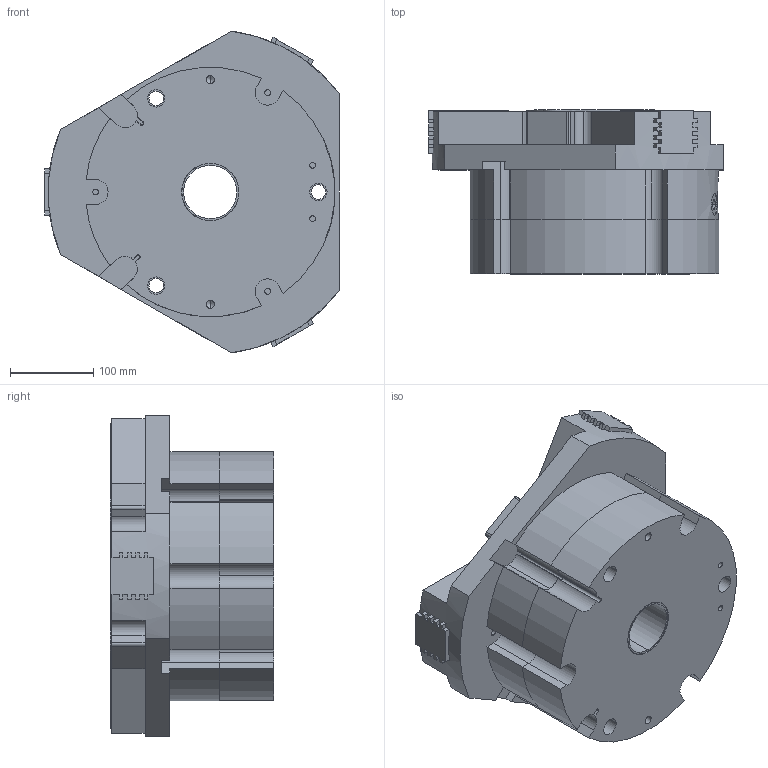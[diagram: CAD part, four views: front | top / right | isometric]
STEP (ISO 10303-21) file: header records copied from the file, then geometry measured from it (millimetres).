
FILE_DESCRIPTION (( 'STEP AP214' ), '1' );
FILE_NAME ('THB-300A-2-IS.STEP', '2021-01-18T02:57:26', ( '' ), ( '' ), 'SwSTEP 2.0', 'SolidWorks 2016', '' );
FILE_SCHEMA (( 'AUTOMOTIVE_DESIGN' ));
Length unit declared in the file: millimetre
Products named in the file (6): THB-300A-2-IS; THB-300A-2-IS-01; THB-300A-2-IS-04; THB-300A-2-IS-05; THB-300A-2-IS-03; THB-300A-2-IS-02
Assembly tree (7 placements, depth 2):
  THB-300A-2-IS
    THB-300A-2-IS-01
    THB-300A-2-IS-02  x3
    THB-300A-2-IS-03
    THB-300A-2-IS-04
    THB-300A-2-IS-05
Bounding box: 354 x 197 x 386.79 mm (x, y, z)
Volume: 12713405.2 mm3; surface area: 993816.7 mm2
Topology: 7 solids, 7 shells, 581 faces, 1611 edges, 1042 vertices
Faces by surface type: plane 325, cylinder 200, cone 56
Entity records: 15699 total; most frequent: CARTESIAN_POINT 2764, DIRECTION 2709, ORIENTED_EDGE 2542, EDGE_CURVE 1271, AXIS2_PLACEMENT_3D 971, VERTEX_POINT 838, VECTOR 767, LINE 767
